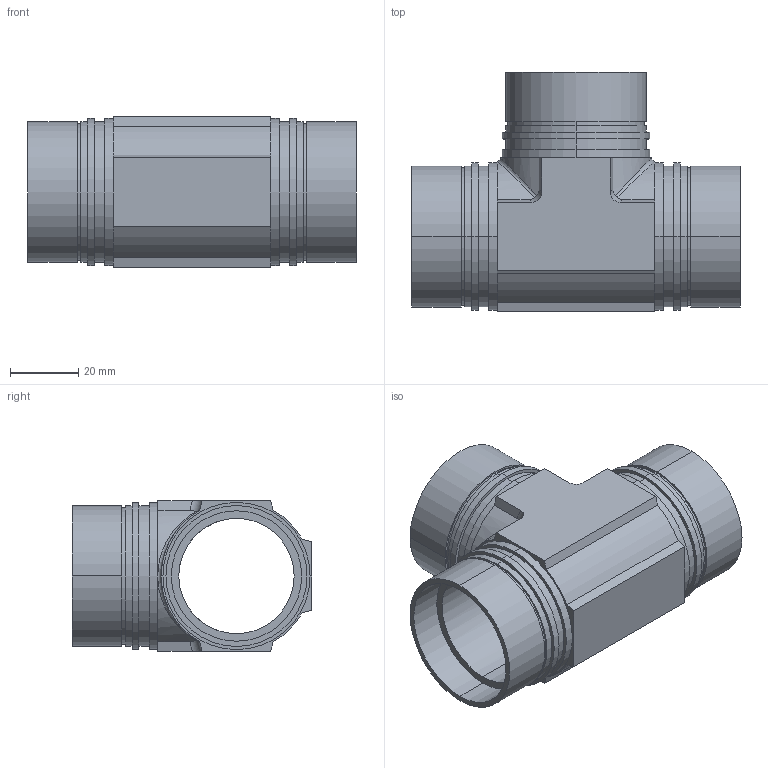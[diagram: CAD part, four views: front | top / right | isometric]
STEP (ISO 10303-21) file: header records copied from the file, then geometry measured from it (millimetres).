
FILE_DESCRIPTION (( 'STEP AP203' ), '1' );
FILE_NAME ('70-381UT-Œ»ƒ‚ƒfƒ‹2.STEP', '2012-10-26T07:45:28', ( 'tsuchida' ), ( 'Microsoft' ), 'SwSTEP 2.0', 'SolidWorks 2012', '' );
FILE_SCHEMA (( 'CONFIG_CONTROL_DESIGN' ));
Length unit declared in the file: millimetre
Products named in the file (1): 70-381UT-尰儌僨儖2
Bounding box: 96 x 70 x 44 mm (x, y, z)
Volume: 57620.8 mm3; surface area: 42303.5 mm2
Topology: 1 solids, 1 shells, 111 faces, 250 edges, 164 vertices
Faces by surface type: cylinder 67, plane 42, bspline 2
Entity records: 3377 total; most frequent: CARTESIAN_POINT 758, DIRECTION 558, ORIENTED_EDGE 500, EDGE_CURVE 250, AXIS2_PLACEMENT_3D 224, VERTEX_POINT 164, EDGE_LOOP 138, CIRCLE 114
